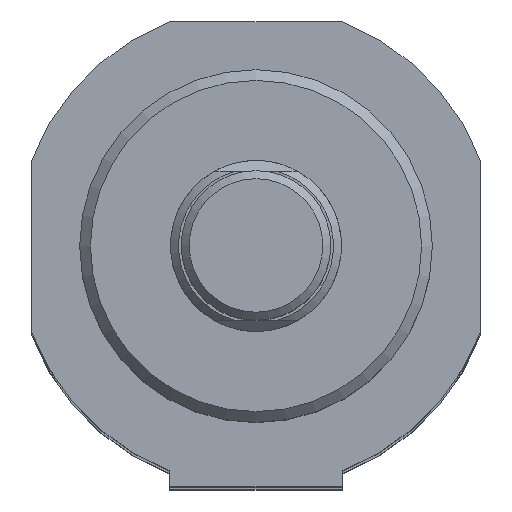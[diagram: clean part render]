
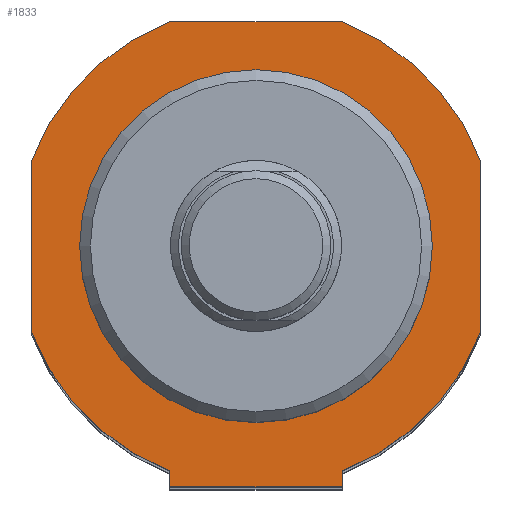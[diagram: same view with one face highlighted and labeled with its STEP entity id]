
A CAD part, top view. The second image highlights one B-rep face of the part: STEP entity #1833.
In plain terms, the highlighted planar face has unit normal (0, 0, 1).
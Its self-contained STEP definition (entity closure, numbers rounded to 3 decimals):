
#898=CARTESIAN_POINT('',(8.078,-22.5,199.));
#899=VERTEX_POINT('',#898);
#900=CARTESIAN_POINT('',(-8.078,-22.5,199.));
#901=VERTEX_POINT('',#900);
#902=CARTESIAN_POINT('',(8.078,-22.5,199.));
#903=DIRECTION('',(-1.0,0.0,0.0));
#904=VECTOR('',#903,16.155);
#905=LINE('',#902,#904);
#906=EDGE_CURVE('',#899,#901,#905,.T.);
#1054=CARTESIAN_POINT('',(-8.078,-21.,199.));
#1055=VERTEX_POINT('',#1054);
#1069=CARTESIAN_POINT('',(-8.078,-21.,199.));
#1070=DIRECTION('',(0.0,-1.0,0.0));
#1071=VECTOR('',#1070,1.5);
#1072=LINE('',#1069,#1071);
#1073=EDGE_CURVE('',#1055,#901,#1072,.T.);
#1085=CARTESIAN_POINT('',(8.078,-21.,199.));
#1086=VERTEX_POINT('',#1085);
#1093=CARTESIAN_POINT('',(8.078,-21.,199.));
#1094=DIRECTION('',(0.0,-1.0,0.0));
#1095=VECTOR('',#1094,1.5);
#1096=LINE('',#1093,#1095);
#1097=EDGE_CURVE('',#1086,#899,#1096,.T.);
#1561=CARTESIAN_POINT('',(16.5,0.,199.));
#1562=VERTEX_POINT('',#1561);
#1563=CARTESIAN_POINT('',(0.,0.,199.));
#1564=DIRECTION('',(0.0,0.0,-1.0));
#1565=DIRECTION('',(-1.0,0.0,0.0));
#1566=AXIS2_PLACEMENT_3D('',#1563,#1564,#1565);
#1567=CIRCLE('',#1566,16.5);
#1568=EDGE_CURVE('',#1562,#1562,#1567,.T.);
#1653=CARTESIAN_POINT('',(-8.078,21.,199.));
#1654=VERTEX_POINT('',#1653);
#1655=CARTESIAN_POINT('',(8.078,21.,199.));
#1656=VERTEX_POINT('',#1655);
#1657=CARTESIAN_POINT('',(-8.078,21.,199.));
#1658=DIRECTION('',(1.0,0.0,0.0));
#1659=VECTOR('',#1658,16.155);
#1660=LINE('',#1657,#1659);
#1661=EDGE_CURVE('',#1654,#1656,#1660,.T.);
#1684=CARTESIAN_POINT('',(21.,8.078,199.));
#1685=VERTEX_POINT('',#1684);
#1686=CARTESIAN_POINT('',(0.,0.,199.));
#1687=DIRECTION('',(0.,0.,-1.0));
#1688=DIRECTION('',(0.933,0.359,0.));
#1689=AXIS2_PLACEMENT_3D('',#1686,#1687,#1688);
#1690=CIRCLE('',#1689,22.5);
#1691=EDGE_CURVE('',#1656,#1685,#1690,.T.);
#1709=CARTESIAN_POINT('',(21.,-8.078,199.));
#1710=VERTEX_POINT('',#1709);
#1711=CARTESIAN_POINT('',(21.,8.078,199.));
#1712=DIRECTION('',(0.0,-1.0,0.0));
#1713=VECTOR('',#1712,16.155);
#1714=LINE('',#1711,#1713);
#1715=EDGE_CURVE('',#1685,#1710,#1714,.T.);
#1733=CARTESIAN_POINT('',(0.,0.,199.));
#1734=DIRECTION('',(0.,0.,-1.));
#1735=DIRECTION('',(0.359,-0.933,0.));
#1736=AXIS2_PLACEMENT_3D('',#1733,#1734,#1735);
#1737=CIRCLE('',#1736,22.5);
#1738=EDGE_CURVE('',#1710,#1086,#1737,.T.);
#1751=CARTESIAN_POINT('',(-21.,-8.078,199.));
#1752=VERTEX_POINT('',#1751);
#1753=CARTESIAN_POINT('',(0.,0.,199.));
#1754=DIRECTION('',(0.,0.,-1.0));
#1755=DIRECTION('',(-0.933,-0.359,0.));
#1756=AXIS2_PLACEMENT_3D('',#1753,#1754,#1755);
#1757=CIRCLE('',#1756,22.5);
#1758=EDGE_CURVE('',#1055,#1752,#1757,.T.);
#1776=CARTESIAN_POINT('',(-21.,8.078,199.));
#1777=VERTEX_POINT('',#1776);
#1778=CARTESIAN_POINT('',(-21.,-8.078,199.));
#1779=DIRECTION('',(0.0,1.0,0.0));
#1780=VECTOR('',#1779,16.155);
#1781=LINE('',#1778,#1780);
#1782=EDGE_CURVE('',#1752,#1777,#1781,.T.);
#1800=CARTESIAN_POINT('',(0.,0.,199.));
#1801=DIRECTION('',(0.,0.,-1.));
#1802=DIRECTION('',(-0.359,0.933,0.));
#1803=AXIS2_PLACEMENT_3D('',#1800,#1801,#1802);
#1804=CIRCLE('',#1803,22.5);
#1805=EDGE_CURVE('',#1777,#1654,#1804,.T.);
#1813=CARTESIAN_POINT('',(0.,0.0,199.));
#1814=DIRECTION('',(0.0,0.0,1.0));
#1815=DIRECTION('',(1.0,0.0,0.0));
#1816=AXIS2_PLACEMENT_3D('',#1813,#1814,#1815);
#1817=PLANE('',#1816);
#1818=ORIENTED_EDGE('',*,*,#1661,.F.);
#1819=ORIENTED_EDGE('',*,*,#1805,.F.);
#1820=ORIENTED_EDGE('',*,*,#1782,.F.);
#1821=ORIENTED_EDGE('',*,*,#1758,.F.);
#1822=ORIENTED_EDGE('',*,*,#1073,.T.);
#1823=ORIENTED_EDGE('',*,*,#906,.F.);
#1824=ORIENTED_EDGE('',*,*,#1097,.F.);
#1825=ORIENTED_EDGE('',*,*,#1738,.F.);
#1826=ORIENTED_EDGE('',*,*,#1715,.F.);
#1827=ORIENTED_EDGE('',*,*,#1691,.F.);
#1828=EDGE_LOOP('',(#1818,#1819,#1820,#1821,#1822,#1823,#1824,#1825,#1826,#1827));
#1829=FACE_OUTER_BOUND('',#1828,.T.);
#1830=ORIENTED_EDGE('',*,*,#1568,.T.);
#1831=EDGE_LOOP('',(#1830));
#1832=FACE_BOUND('',#1831,.T.);
#1833=ADVANCED_FACE('',(#1829,#1832),#1817,.T.);
